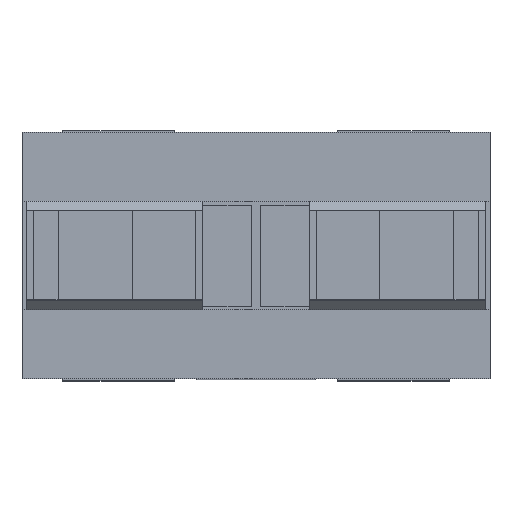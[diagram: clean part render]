
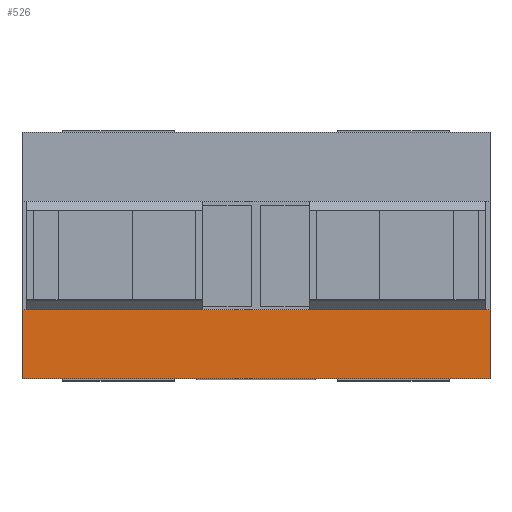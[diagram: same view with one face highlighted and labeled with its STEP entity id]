
A CAD part, top view. The second image highlights one B-rep face of the part: STEP entity #526.
In plain terms, the highlighted planar face has unit normal (0, 0, 1).
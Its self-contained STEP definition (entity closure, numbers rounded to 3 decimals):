
#526 = ADVANCED_FACE( '', ( #1084 ), #1085, .F. );
#1084 = FACE_OUTER_BOUND( '', #1636, .T. );
#1085 = PLANE( '', #1637 );
#1636 = EDGE_LOOP( '', ( #2969, #2970, #2971, #2972 ) );
#1637 = AXIS2_PLACEMENT_3D( '', #2973, #2974, #2975 );
#2969 = ORIENTED_EDGE( '', *, *, #3619, .T. );
#2970 = ORIENTED_EDGE( '', *, *, #3284, .F. );
#2971 = ORIENTED_EDGE( '', *, *, #3591, .F. );
#2972 = ORIENTED_EDGE( '', *, *, #3567, .T. );
#2973 = CARTESIAN_POINT( '', ( 31.5, -7.3, 74.6 ) );
#2974 = DIRECTION( '', ( 0., 0., -1. ) );
#2975 = DIRECTION( '', ( -1., 0., 0. ) );
#3284 = EDGE_CURVE( '', #3957, #3959, #3960, .T. );
#3567 = EDGE_CURVE( '', #4370, #4368, #4371, .T. );
#3591 = EDGE_CURVE( '', #4370, #3957, #4397, .T. );
#3619 = EDGE_CURVE( '', #4368, #3959, #4428, .T. );
#3957 = VERTEX_POINT( '', #4888 );
#3959 = VERTEX_POINT( '', #4891 );
#3960 = LINE( '', #4892, #4893 );
#4368 = VERTEX_POINT( '', #5460 );
#4370 = VERTEX_POINT( '', #5463 );
#4371 = LINE( '', #5464, #5465 );
#4397 = LINE( '', #5497, #5498 );
#4428 = LINE( '', #5536, #5537 );
#4888 = CARTESIAN_POINT( '', ( 31.5, -16.6, 74.6 ) );
#4891 = CARTESIAN_POINT( '', ( -31.5, -16.6, 74.6 ) );
#4892 = CARTESIAN_POINT( '', ( 31.5, -16.6, 74.6 ) );
#4893 = VECTOR( '', #5761, 1000. );
#5460 = CARTESIAN_POINT( '', ( -31.5, -7.3, 74.6 ) );
#5463 = CARTESIAN_POINT( '', ( 31.5, -7.3, 74.6 ) );
#5464 = CARTESIAN_POINT( '', ( 31.5, -7.3, 74.6 ) );
#5465 = VECTOR( '', #6054, 1000. );
#5497 = CARTESIAN_POINT( '', ( 31.5, -7.3, 74.6 ) );
#5498 = VECTOR( '', #6076, 1000. );
#5536 = CARTESIAN_POINT( '', ( -31.5, -7.3, 74.6 ) );
#5537 = VECTOR( '', #6093, 1000. );
#5761 = DIRECTION( '', ( -1., 0., 0. ) );
#6054 = DIRECTION( '', ( -1., 0., 0. ) );
#6076 = DIRECTION( '', ( 0., -1., 0. ) );
#6093 = DIRECTION( '', ( 0., -1., 0. ) );
